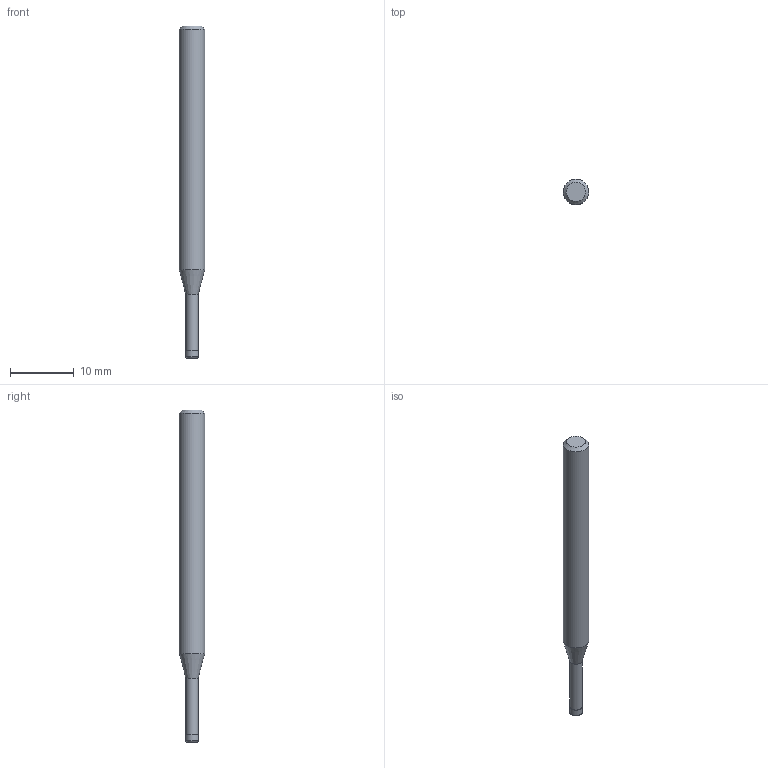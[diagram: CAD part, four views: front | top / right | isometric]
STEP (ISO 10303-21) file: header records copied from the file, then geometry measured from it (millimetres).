
FILE_DESCRIPTION((''),'2;1');
FILE_NAME('C:\Users\nsx150\AppData\Local\Temp\Mastercam 2021\LJSIDMOTM8\TEMP.step','2021-08-03T13:51:36',(''),(''),'STEP Write','Mastercam 2021 ... CNC Software, Inc.','');
FILE_SCHEMA(('AUTOMOTIVE_DESIGN'));
Length unit declared in the file: millimetre
Products named in the file (1): None
Bounding box: 4 x 4 x 52 mm (x, y, z)
Volume: 535.5 mm3; surface area: 595 mm2
Topology: 2 solids, 2 shells, 10 faces, 14 edges, 8 vertices
Faces by surface type: plane 4, cylinder 3, cone 2, torus 1
Full cylindrical faces by diameter (mm): 1.94 x1, 2 x1, 4 x1
Entity records: 232 total; most frequent: DIRECTION 40, CARTESIAN_POINT 28, AXIS2_PLACEMENT_3D 20, ORIENTED_EDGE 16, EDGE_LOOP 16, STYLED_ITEM 13, ADVANCED_FACE 10, FACE_BOUND 10
